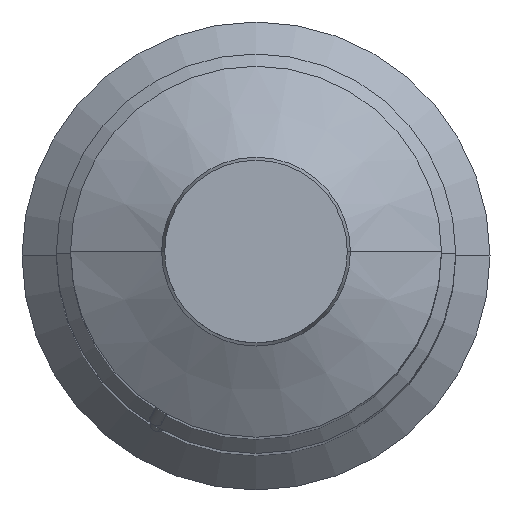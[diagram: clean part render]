
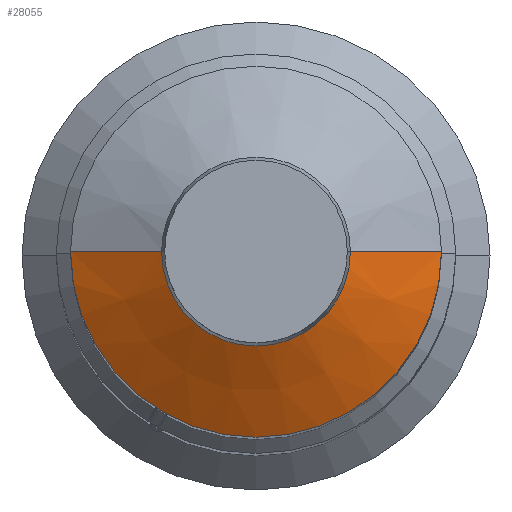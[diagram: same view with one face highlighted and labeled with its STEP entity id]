
A CAD part, top view. The second image highlights one B-rep face of the part: STEP entity #28055.
In plain terms, the highlighted conical face has half-angle 60 degrees and reference radius 32.5 mm.
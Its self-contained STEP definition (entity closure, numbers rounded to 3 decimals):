
#485 = CARTESIAN_POINT ( 'NONE',  ( 32.5, 0., 477.983 ) ) ;
#997 = LINE ( 'NONE', #22064, #18136 ) ;
#3043 = EDGE_CURVE ( 'NONE', #4909, #27725, #15743, .T. ) ;
#3617 = CARTESIAN_POINT ( 'NONE',  ( -32.5, 0., 477.983 ) ) ;
#4909 = VERTEX_POINT ( 'NONE', #485 ) ;
#5342 = DIRECTION ( 'NONE',  ( 1., 0., 0. ) ) ;
#5862 = DIRECTION ( 'NONE',  ( -0.866, 0., -0.5 ) ) ;
#6038 = LINE ( 'NONE', #3617, #17230 ) ;
#6157 = EDGE_LOOP ( 'NONE', ( #24115, #9329, #15935, #21966 ) ) ;
#6261 = DIRECTION ( 'NONE',  ( 0., 0., -1. ) ) ;
#6639 = AXIS2_PLACEMENT_3D ( 'NONE', #19618, #6261, #21885 ) ;
#8232 = CARTESIAN_POINT ( 'NONE',  ( 16.536, 0., 487.2 ) ) ;
#8680 = VERTEX_POINT ( 'NONE', #23792 ) ;
#8919 = CARTESIAN_POINT ( 'NONE',  ( -32.5, 0., 477.983 ) ) ;
#9070 = VERTEX_POINT ( 'NONE', #8232 ) ;
#9324 = CIRCLE ( 'NONE', #6639, 16.536 ) ;
#9329 = ORIENTED_EDGE ( 'NONE', *, *, #9915, .T. ) ;
#9833 = DIRECTION ( 'NONE',  ( 1., 0., 0. ) ) ;
#9915 = EDGE_CURVE ( 'NONE', #8680, #27725, #6038, .T. ) ;
#10130 = DIRECTION ( 'NONE',  ( 0., 0., -1. ) ) ;
#10301 = FACE_OUTER_BOUND ( 'NONE', #6157, .T. ) ;
#10620 = CARTESIAN_POINT ( 'NONE',  ( 0., 0., 477.983 ) ) ;
#11087 = DIRECTION ( 'NONE',  ( 0.866, 0., -0.5 ) ) ;
#12066 = EDGE_CURVE ( 'NONE', #9070, #4909, #997, .T. ) ;
#13574 = AXIS2_PLACEMENT_3D ( 'NONE', #10620, #10130, #9833 ) ;
#15743 = CIRCLE ( 'NONE', #13574, 32.5 ) ;
#15935 = ORIENTED_EDGE ( 'NONE', *, *, #3043, .F. ) ;
#17230 = VECTOR ( 'NONE', #5862, 1000. ) ;
#18136 = VECTOR ( 'NONE', #11087, 1000. ) ;
#18732 = CARTESIAN_POINT ( 'NONE',  ( 0., 0., 477.983 ) ) ;
#19326 = CONICAL_SURFACE ( 'NONE', #23422, 32.5, 1.047 ) ;
#19618 = CARTESIAN_POINT ( 'NONE',  ( 0., 0., 487.2 ) ) ;
#20319 = EDGE_CURVE ( 'NONE', #9070, #8680, #9324, .T. ) ;
#21885 = DIRECTION ( 'NONE',  ( 1., 0., 0. ) ) ;
#21966 = ORIENTED_EDGE ( 'NONE', *, *, #12066, .F. ) ;
#22064 = CARTESIAN_POINT ( 'NONE',  ( 32.5, 0., 477.983 ) ) ;
#23422 = AXIS2_PLACEMENT_3D ( 'NONE', #18732, #25372, #5342 ) ;
#23792 = CARTESIAN_POINT ( 'NONE',  ( -16.536, 0., 487.2 ) ) ;
#24115 = ORIENTED_EDGE ( 'NONE', *, *, #20319, .T. ) ;
#25372 = DIRECTION ( 'NONE',  ( 0., 0., -1. ) ) ;
#27725 = VERTEX_POINT ( 'NONE', #8919 ) ;
#28055 = ADVANCED_FACE ( 'NONE', ( #10301 ), #19326, .T. ) ;
